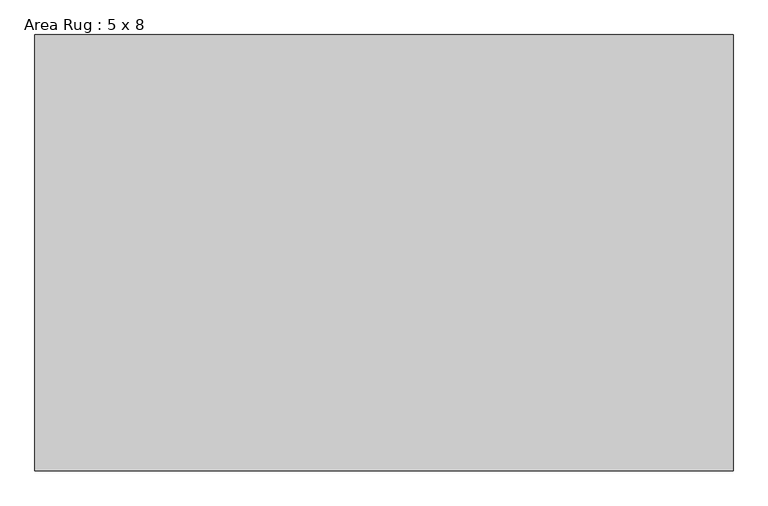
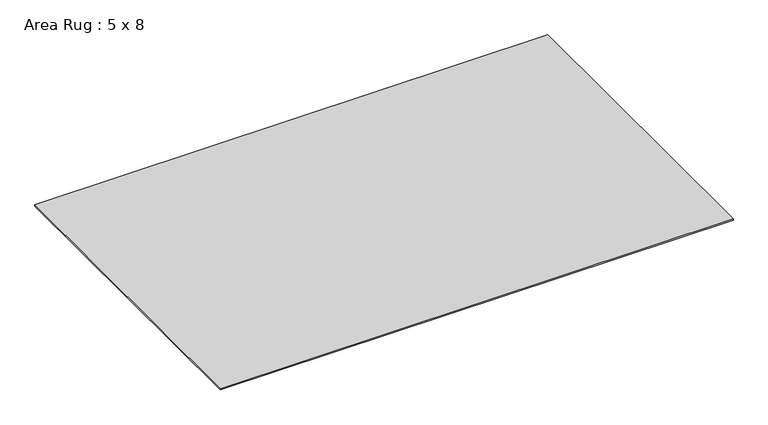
"""IFC4 building model written with IfcOpenShell, lengths in millimetres: furniture geometry, Area Rug : 5 x 8."""

from ifc_helpers import new_model, si_unit, origin, origin_with_axes, place, context, project, spatial, polyline, outline, extrude, source, transform, mapped, element, save


def area_rug_5_x_8_81283b17(model_context):
    return source(origin(), model_context, "Body", "SweptSolid", [
        extrude(outline(polyline([(1219.2, 762.0), (1219.2, -762.0), (-1219.2, -762.0), (-1219.2, 762.0), (1219.2, 762.0)])), origin_with_axes(), (0.0, 0.0, 1.0), 6.35),
    ])


if __name__ == "__main__":
    model = new_model("IFC4")
    model_context = context("Model", 3, world=origin())
    ifc_project = project(units=[si_unit("LENGTHUNIT", "METRE", prefix="MILLI")], contexts=[model_context])
    site = spatial("IfcSite", under=ifc_project)
    building = spatial("IfcBuilding", under=site)
    placement = place(None, origin())
    area_rug_5_x_8_shape = area_rug_5_x_8_81283b17(model_context)
    element("IfcFurniture", 1, ObjectType="Area Rug : 5 x 8", at=placement, inside=building, context=model_context, shape_type="MappedRepresentation", body=[
        mapped(area_rug_5_x_8_shape, transform((0.0, 0.0, 0.0), x_axis=(1.0, 0.0, 0.0), y_axis=(0.0, 1.0, 0.0), z_axis=(0.0, 0.0, 1.0))),
    ])
    save(model, "model.ifc")
